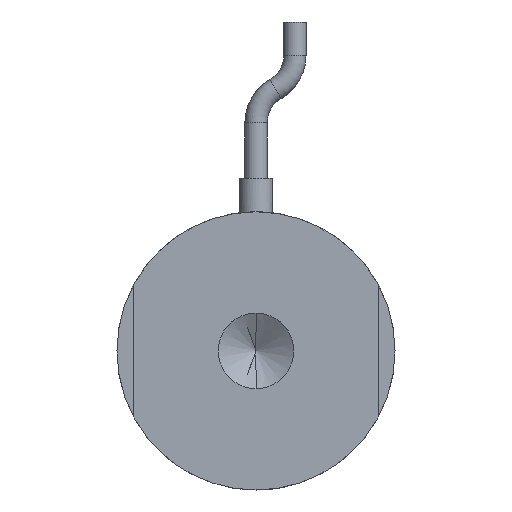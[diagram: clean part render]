
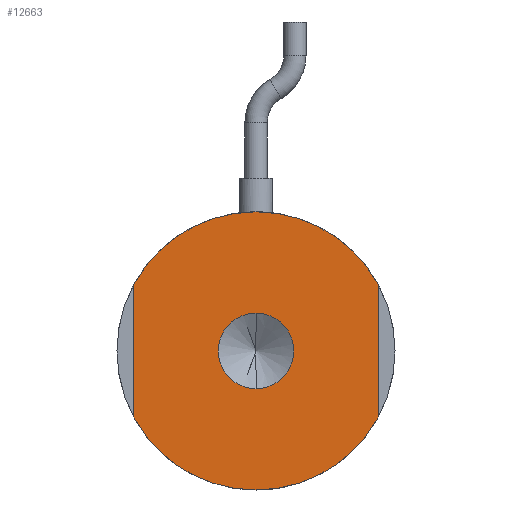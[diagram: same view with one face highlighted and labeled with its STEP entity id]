
A CAD part, front view. The second image highlights one B-rep face of the part: STEP entity #12663.
In plain terms, the highlighted planar face has unit normal (0, -1, 0).
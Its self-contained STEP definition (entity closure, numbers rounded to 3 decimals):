
#144 = AXIS2_PLACEMENT_3D ( 'NONE', #7233, #31099, #10673 ) ;
#2074 = DIRECTION ( 'NONE',  ( 0., 0., -1. ) ) ;
#3008 = VERTEX_POINT ( 'NONE', #16262 ) ;
#4015 = EDGE_CURVE ( 'NONE', #20566, #10272, #41360, .T. ) ;
#4076 = CARTESIAN_POINT ( 'NONE',  ( 0., 0., 0. ) ) ;
#4112 = DIRECTION ( 'NONE',  ( 0., 1., 0. ) ) ;
#5033 = EDGE_CURVE ( 'NONE', #26804, #23392, #18386, .T. ) ;
#7108 = DIRECTION ( 'NONE',  ( 0., 1., 0. ) ) ;
#7233 = CARTESIAN_POINT ( 'NONE',  ( 0., 0., 0. ) ) ;
#7501 = DIRECTION ( 'NONE',  ( 0., 0., -1. ) ) ;
#7831 = CARTESIAN_POINT ( 'NONE',  ( 11., 0., -5.937 ) ) ;
#10272 = VERTEX_POINT ( 'NONE', #22015 ) ;
#10673 = DIRECTION ( 'NONE',  ( 0., 0., 1. ) ) ;
#11417 = VECTOR ( 'NONE', #22916, 1000. ) ;
#12663 = ADVANCED_FACE ( 'NONE', ( #30136, #25366 ), #17726, .F. ) ;
#13382 = AXIS2_PLACEMENT_3D ( 'NONE', #27589, #7108, #30977 ) ;
#14308 = CARTESIAN_POINT ( 'NONE',  ( -11., 0., -5.937 ) ) ;
#14534 = AXIS2_PLACEMENT_3D ( 'NONE', #35998, #15581, #39424 ) ;
#14752 = ORIENTED_EDGE ( 'NONE', *, *, #20189, .F. ) ;
#14844 = VERTEX_POINT ( 'NONE', #18384 ) ;
#15042 = DIRECTION ( 'NONE',  ( 0., -1., 0. ) ) ;
#15366 = CARTESIAN_POINT ( 'NONE',  ( 0., 0., 0. ) ) ;
#15581 = DIRECTION ( 'NONE',  ( 0., 1., 0. ) ) ;
#16209 = VECTOR ( 'NONE', #2074, 1000. ) ;
#16262 = CARTESIAN_POINT ( 'NONE',  ( 11., 0., 5.937 ) ) ;
#16901 = ORIENTED_EDGE ( 'NONE', *, *, #32159, .F. ) ;
#16990 = ORIENTED_EDGE ( 'NONE', *, *, #39786, .F. ) ;
#17425 = CARTESIAN_POINT ( 'NONE',  ( 0., 0., 3.4 ) ) ;
#17726 = PLANE ( 'NONE',  #34710 ) ;
#18384 = CARTESIAN_POINT ( 'NONE',  ( 0., 0., -3.4 ) ) ;
#18386 = LINE ( 'NONE', #19491, #11417 ) ;
#18547 = CARTESIAN_POINT ( 'NONE',  ( 0., 0., 12.5 ) ) ;
#18838 = DIRECTION ( 'NONE',  ( 0., 0., 1. ) ) ;
#19491 = CARTESIAN_POINT ( 'NONE',  ( -11., 0., 0. ) ) ;
#19825 = AXIS2_PLACEMENT_3D ( 'NONE', #4076, #27973, #7501 ) ;
#20189 = EDGE_CURVE ( 'NONE', #14844, #43282, #37925, .T. ) ;
#20566 = VERTEX_POINT ( 'NONE', #7831 ) ;
#22015 = CARTESIAN_POINT ( 'NONE',  ( 0., 0., -12.5 ) ) ;
#22540 = CARTESIAN_POINT ( 'NONE',  ( 11., 0., 0. ) ) ;
#22800 = CARTESIAN_POINT ( 'NONE',  ( -11., 0., 5.937 ) ) ;
#22916 = DIRECTION ( 'NONE',  ( 0., 0., 1. ) ) ;
#23392 = VERTEX_POINT ( 'NONE', #22800 ) ;
#25366 = FACE_OUTER_BOUND ( 'NONE', #25900, .T. ) ;
#25468 = ORIENTED_EDGE ( 'NONE', *, *, #29356, .F. ) ;
#25900 = EDGE_LOOP ( 'NONE', ( #31307, #25468, #31846, #43047, #41518, #16990 ) ) ;
#26804 = VERTEX_POINT ( 'NONE', #14308 ) ;
#27589 = CARTESIAN_POINT ( 'NONE',  ( 0., 0., 0. ) ) ;
#27973 = DIRECTION ( 'NONE',  ( 0., -1., 0. ) ) ;
#28017 = DIRECTION ( 'NONE',  ( 0., 0., 1. ) ) ;
#28943 = CIRCLE ( 'NONE', #14534, 12.5 ) ;
#29356 = EDGE_CURVE ( 'NONE', #10272, #26804, #33429, .T. ) ;
#30136 = FACE_BOUND ( 'NONE', #36201, .T. ) ;
#30186 = CIRCLE ( 'NONE', #19825, 3.4 ) ;
#30977 = DIRECTION ( 'NONE',  ( 0., 0., 1. ) ) ;
#31099 = DIRECTION ( 'NONE',  ( 0., 1., 0. ) ) ;
#31307 = ORIENTED_EDGE ( 'NONE', *, *, #5033, .F. ) ;
#31846 = ORIENTED_EDGE ( 'NONE', *, *, #4015, .F. ) ;
#31969 = VERTEX_POINT ( 'NONE', #18547 ) ;
#32159 = EDGE_CURVE ( 'NONE', #43282, #14844, #30186, .T. ) ;
#33429 = CIRCLE ( 'NONE', #36291, 12.5 ) ;
#34248 = EDGE_CURVE ( 'NONE', #3008, #20566, #42372, .T. ) ;
#34710 = AXIS2_PLACEMENT_3D ( 'NONE', #38117, #4112, #28017 ) ;
#35458 = CARTESIAN_POINT ( 'NONE',  ( 0., 0., 0. ) ) ;
#35998 = CARTESIAN_POINT ( 'NONE',  ( 0., 0., 0. ) ) ;
#36201 = EDGE_LOOP ( 'NONE', ( #14752, #16901 ) ) ;
#36291 = AXIS2_PLACEMENT_3D ( 'NONE', #15366, #39225, #18838 ) ;
#37495 = EDGE_CURVE ( 'NONE', #31969, #3008, #38608, .T. ) ;
#37925 = CIRCLE ( 'NONE', #38489, 3.4 ) ;
#38117 = CARTESIAN_POINT ( 'NONE',  ( 0., 0., 0. ) ) ;
#38489 = AXIS2_PLACEMENT_3D ( 'NONE', #35458, #15042, #38896 ) ;
#38608 = CIRCLE ( 'NONE', #13382, 12.5 ) ;
#38896 = DIRECTION ( 'NONE',  ( 0., 0., -1. ) ) ;
#39225 = DIRECTION ( 'NONE',  ( 0., 1., 0. ) ) ;
#39424 = DIRECTION ( 'NONE',  ( 0., 0., 1. ) ) ;
#39786 = EDGE_CURVE ( 'NONE', #23392, #31969, #28943, .T. ) ;
#41360 = CIRCLE ( 'NONE', #144, 12.5 ) ;
#41518 = ORIENTED_EDGE ( 'NONE', *, *, #37495, .F. ) ;
#42372 = LINE ( 'NONE', #22540, #16209 ) ;
#43047 = ORIENTED_EDGE ( 'NONE', *, *, #34248, .F. ) ;
#43282 = VERTEX_POINT ( 'NONE', #17425 ) ;
